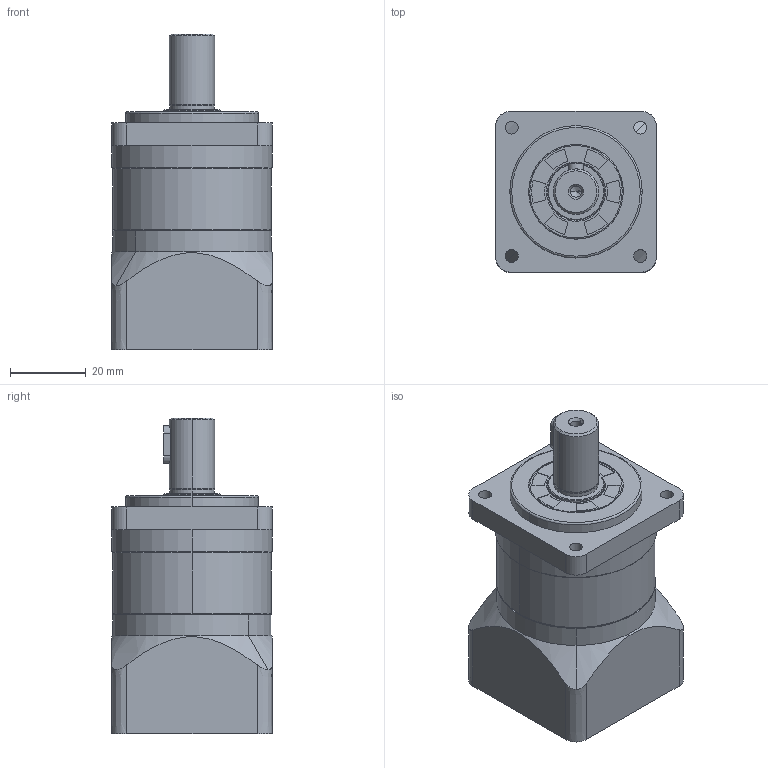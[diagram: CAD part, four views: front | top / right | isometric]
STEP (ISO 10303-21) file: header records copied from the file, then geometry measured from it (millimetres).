
FILE_DESCRIPTION (( 'STEP AP214' ), '1' );
FILE_NAME ('SB42-L1(8-30-46-M4).STEP', '2019-07-12T05:39:28', ( '' ), ( '' ), 'SwSTEP 2.0', 'SolidWorks 2016', '' );
FILE_SCHEMA (( 'AUTOMOTIVE_DESIGN' ));
Length unit declared in the file: millimetre
Products named in the file (8): SN42-(30-46-M4); SB42-(35x3-48-3.4); SN42-15x25x4; SN42-(12x20-4x10); SN42; SN42-(8); SN42-26x14x11-M4; SB42-L1(8-30-46-M4)
Assembly tree (7 placements, depth 2):
  SB42-L1(8-30-46-M4)
    SB42-(35x3-48-3.4)
    SN42-(12x20-4x10)
    SN42
    SN42-(30-46-M4)
    SN42-(8)
    SN42-26x14x11-M4
    SN42-15x25x4
Bounding box: 42.5 x 42.5 x 83.5 mm (x, y, z)
Volume: 79922.6 mm3; surface area: 33411.6 mm2
Topology: 7 solids, 10 shells, 389 faces, 962 edges, 602 vertices
Faces by surface type: cylinder 208, plane 93, cone 50, bspline 34, torus 4
Entity records: 25272 total; most frequent: CARTESIAN_POINT 15122, ORIENTED_EDGE 1884, DIRECTION 1751, EDGE_CURVE 944, AXIS2_PLACEMENT_3D 685, VERTEX_POINT 602, EDGE_LOOP 453, FACE_OUTER_BOUND 389
